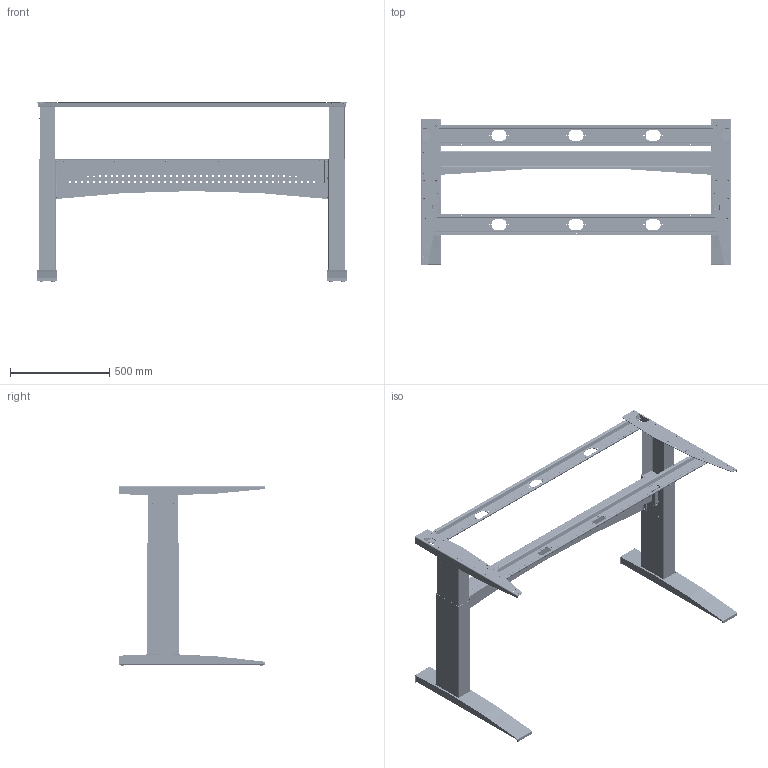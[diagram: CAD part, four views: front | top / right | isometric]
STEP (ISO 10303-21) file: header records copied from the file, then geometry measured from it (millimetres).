
FILE_DESCRIPTION (( 'STEP AP203' ), '1' );
FILE_NAME ('Tech-draw_501-11_XX156.STEP', '2019-09-24T11:32:06', ( '' ), ( '' ), 'SwSTEP 2.0', 'SolidWorks 2018', '' );
FILE_SCHEMA (( 'CONFIG_CONTROL_DESIGN' ));
Length unit declared in the file: millimetre
Products named in the file (46): 303720_silver; 303520; 103490_silver; 104000_silver; 103390_silver; 103380_silver; 103470_silver; 300600; 303430_silver; 103560_silver; 303540; 103360_silver; 303930_zinc; 103350_silver; 303690_silver; 304300_156; 304650_zinc; 303680; 103340_silver; 304640; 103620_silver; 303940_silver; 304130; 103320_silver; 103370_silver; 303470; 103680_silver1; Tech-draw_501-11_XX156; 303590_silver; 345830; 304650_silver; 303510; 104100_wo wire; 305680_zinc; 303530; 303580_silver; 149570_501-11 XS156; 103410_silver; 103670_silver1; 305660_silver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
Assembly tree (107 placements, depth 8):
  Tech-draw_501-11_XX156
    149570_501-11 XS156
      103680_silver1  x2
        103670_silver1
          304300_156
          304130  x8
        300600
      104000_silver
        103990_silver
          103390_silver
            103350_silver
              103320_silver
                303540
                303550
              303720_silver
              303590_silver
          103410_silver
            103370_silver
              303530
              303520
              Weld_09  x2
            303930_zinc  x6
        304650_silver  x6
        303470  x4
        303560_silver
        303430_silver
        305680_zinc  x2
        104100_wo wire
          304640
      103490_silver
        103470_silver
          103380_silver
            103340_silver
              103320_silver
                303540
                303550
                345830  x2
              303580_silver
              303590_silver
          103400_silver
            103360_silver
              303530
              303510
              Weld_09  x4
            303930_zinc  x2
        303940_silver
        304650_zinc  x6
        303470  x4
        305660_silver
        305680_zinc  x2
      103560_silver
        103620_silver
          303680
          304130  x6
        304650_zinc  x6
      303690_silver
Bounding box: 1562.45 x 732.3 x 905.5 mm (x, y, z)
Volume: 4521986.2 mm3; surface area: 5772656.2 mm2
Topology: 101 solids, 101 shells, 4731 faces, 12707 edges, 8299 vertices
Faces by surface type: plane 2352, cylinder 1866, bspline 252, torus 175, cone 78, sphere 8
Full cylindrical faces by diameter (mm): 1.5 x3, 3.2 x4, 3.3 x4, 4 x60, 4.2 x4, 4.5 x20, 5 x38, 6 x406, 6.2 x24, 6.5 x2, 6.8 x4, 7 x56, 8 x16, 9 x22, 10 x12, 13 x6, 27.6 x1, 28 x2, 30 x1
Entity records: 108757 total; most frequent: CARTESIAN_POINT 27310, DIRECTION 15784, ORIENTED_EDGE 15138, EDGE_CURVE 7569, AXIS2_PLACEMENT_3D 5394, VERTEX_POINT 5043, LINE 4996, VECTOR 4996
